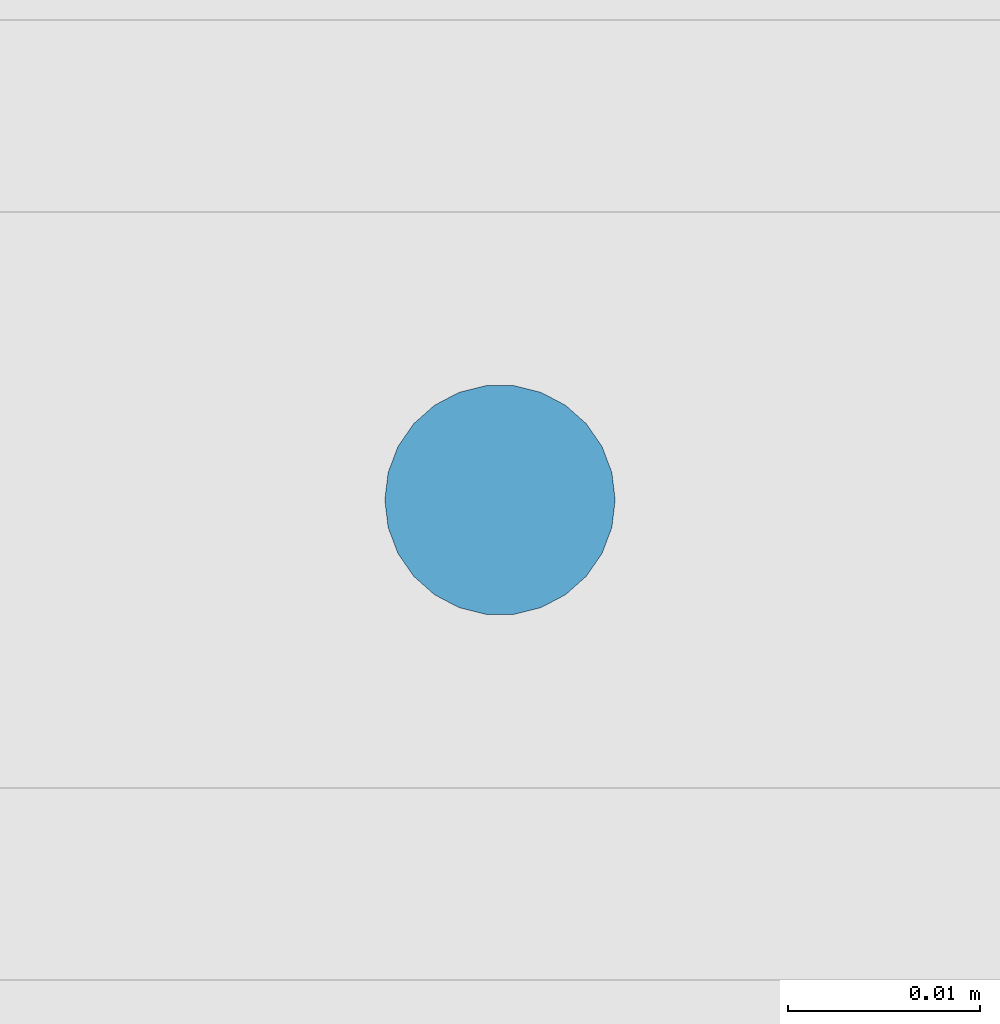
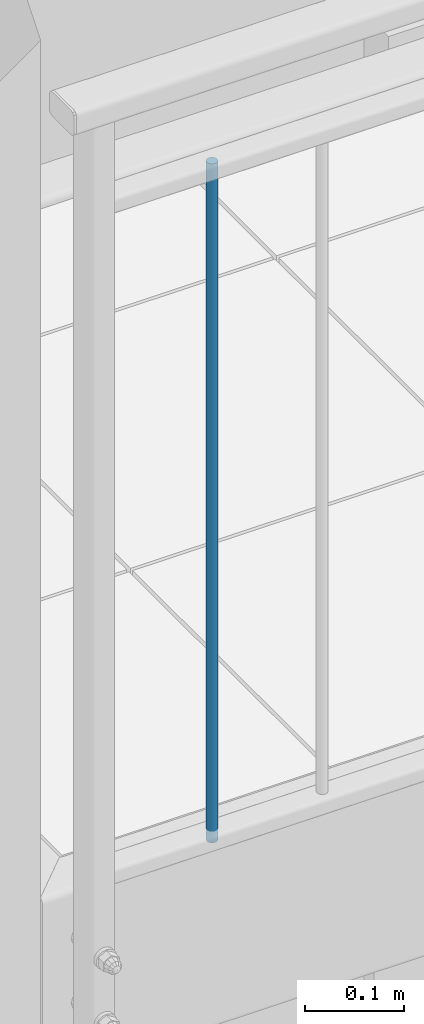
# One storey, part 18 of 162: 1 column.
"""IFC2X3 building model written with IfcOpenShell, lengths in millimetres."""

from ifc_helpers import new_model, entity, si_unit, converted_unit, frame, origin, origin_with_axes, origin_2d, place, context, project, spatial, circle, extrude, material, element, save


model = new_model("IFC2X3")

# Units and contexts
model_context = context("Model", 3, precision=1e-09, world=origin_with_axes())
ifc_project = project(units=[si_unit("LENGTHUNIT", "METRE", prefix="MILLI"), si_unit("AREAUNIT", "SQUARE_METRE"), si_unit("VOLUMEUNIT", "CUBIC_METRE"), converted_unit("PLANEANGLEUNIT", "DEGREE", entity("IfcPlaneAngleMeasure", 0.01745329), si_unit("PLANEANGLEUNIT", "RADIAN"), dimensions=[0, 0, 0, 0, 0, 0, 0])], contexts=[model_context])

# Site, building, storey
site_placement = place(None, origin_with_axes())
site = spatial("IfcSite", under=ifc_project, at=site_placement, Name="Hermannstra?e 1a, 60318 Frankfurt", CompositionType="ELEMENT")
building_placement = place(site_placement, origin_with_axes())
building = spatial("IfcBuilding", under=site, at=building_placement, Name="Struktur 1", CompositionType="ELEMENT")
storey_placement = place(building_placement, origin_with_axes())
storey = spatial("IfcBuildingStorey", under=building, at=storey_placement, Name="Default Storey", CompositionType="ELEMENT", Elevation=0.0)

# Column
ifc_material = material(Name="S235JR")
column_placement = place(None, frame((2741.166507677, 1515.609373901, 3980.0), z_axis=(0.0, 0.0, -1.0), x_axis=(1.0, 0.0, 0.0)))
element("IfcColumn", 1, at=column_placement, inside=storey, material=ifc_material, Name="-", ObjectType="-", context=model_context, shape_type="SweptSolid", body=[
    extrude(circle(Radius=6.0, at=origin_2d()), origin(), (0.0, 0.0, -1.0), 840.0),
])

save(model, "model.ifc")
